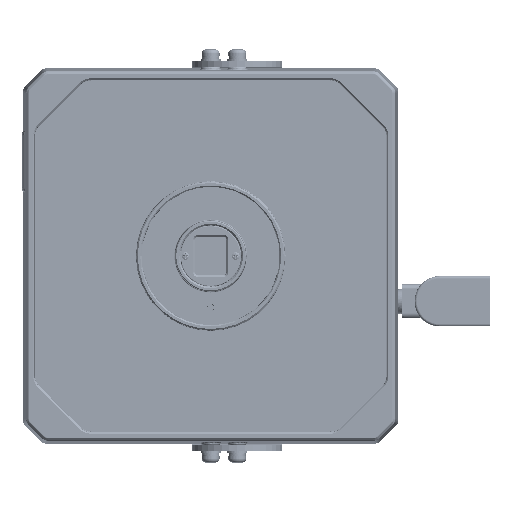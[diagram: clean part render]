
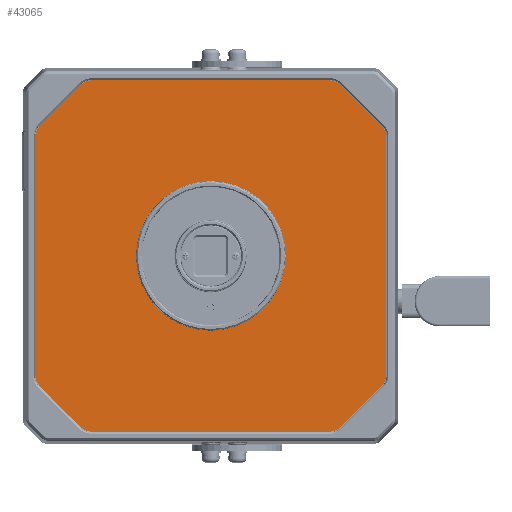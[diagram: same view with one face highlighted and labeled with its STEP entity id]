
A CAD part, front view. The second image highlights one B-rep face of the part: STEP entity #43065.
In plain terms, the highlighted planar face has unit normal (0, -1, 0).
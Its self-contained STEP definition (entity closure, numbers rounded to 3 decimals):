
#39013=DIRECTION('',(-0.707,0.,0.707));
#39014=VECTOR('',#39013,23.314);
#39015=CARTESIAN_POINT('',(68.024,0.,
51.539));
#39016=LINE('',#39015,#39014);
#39017=CARTESIAN_POINT('',(63.8,0.,47.315));
#39018=DIRECTION('',(0.,-1.,0.));
#39019=DIRECTION('',(1.,0.,0.));
#39020=AXIS2_PLACEMENT_3D('',#39017,#39018,#39019);
#39022=CARTESIAN_POINT('',(63.8,0.,-47.315));
#39023=DIRECTION('',(0.,-1.,0.));
#39024=DIRECTION('',(0.707,0.,-0.707));
#39025=AXIS2_PLACEMENT_3D('',#39022,#39023,#39024);
#39027=DIRECTION('',(0.707,0.,0.707));
#39028=VECTOR('',#39027,23.314);
#39029=CARTESIAN_POINT('',(51.539,0.,
-68.024));
#39030=LINE('',#39029,#39028);
#39031=CARTESIAN_POINT('',(47.315,0.,-63.8));
#39032=DIRECTION('',(0.,-1.,0.));
#39033=DIRECTION('',(0.,0.,-1.));
#39034=AXIS2_PLACEMENT_3D('',#39031,#39032,#39033);
#39036=CARTESIAN_POINT('',(-47.315,0.,-63.8));
#39037=DIRECTION('',(0.,-1.,0.));
#39038=DIRECTION('',(-0.707,0.,-0.707));
#39039=AXIS2_PLACEMENT_3D('',#39036,#39037,#39038);
#39041=DIRECTION('',(0.707,0.,-0.707));
#39042=VECTOR('',#39041,23.314);
#39043=CARTESIAN_POINT('',(-68.024,0.,
-51.539));
#39044=LINE('',#39043,#39042);
#39045=CARTESIAN_POINT('',(-63.8,0.,-47.315));
#39046=DIRECTION('',(0.,-1.,0.));
#39047=DIRECTION('',(-1.,0.,0.));
#39048=AXIS2_PLACEMENT_3D('',#39045,#39046,#39047);
#39050=CARTESIAN_POINT('',(-63.8,0.,47.315));
#39051=DIRECTION('',(0.,-1.,0.));
#39052=DIRECTION('',(-0.707,0.,0.707));
#39053=AXIS2_PLACEMENT_3D('',#39050,#39051,#39052);
#39055=DIRECTION('',(-0.707,0.,-0.707));
#39056=VECTOR('',#39055,23.314);
#39057=CARTESIAN_POINT('',(-51.539,0.,
68.024));
#39058=LINE('',#39057,#39056);
#39059=CARTESIAN_POINT('',(-47.315,0.,63.8));
#39060=DIRECTION('',(0.,-1.,0.));
#39061=DIRECTION('',(0.,0.,1.));
#39062=AXIS2_PLACEMENT_3D('',#39059,#39060,#39061);
#39064=CARTESIAN_POINT('',(47.315,0.,63.8));
#39065=DIRECTION('',(0.,-1.,0.));
#39066=DIRECTION('',(0.707,0.,0.707));
#39067=AXIS2_PLACEMENT_3D('',#39064,#39065,#39066);
#39077=DIRECTION('',(1.,0.,0.));
#39078=VECTOR('',#39077,94.629);
#39079=CARTESIAN_POINT('',(-47.315,0.,
69.774));
#39080=LINE('',#39079,#39078);
#39097=DIRECTION('',(0.,0.,1.));
#39098=VECTOR('',#39097,94.629);
#39099=CARTESIAN_POINT('',(-69.774,0.,
-47.315));
#39100=LINE('',#39099,#39098);
#39780=DIRECTION('',(-1.,0.,0.));
#39781=VECTOR('',#39780,94.629);
#39782=CARTESIAN_POINT('',(47.315,0.,
-69.774));
#39783=LINE('',#39782,#39781);
#39800=DIRECTION('',(0.,0.,-1.));
#39801=VECTOR('',#39800,94.629);
#39802=CARTESIAN_POINT('',(69.774,0.,
47.315));
#39803=LINE('',#39802,#39801);
#39880=CARTESIAN_POINT('',(0.,0.,0.));
#39881=DIRECTION('',(0.,-1.,0.));
#39882=DIRECTION('',(-1.,0.,0.));
#39883=AXIS2_PLACEMENT_3D('',#39880,#39881,#39882);
#39894=CARTESIAN_POINT('',(0.,0.,0.));
#39895=DIRECTION('',(0.,-1.,0.));
#39896=DIRECTION('',(1.,0.,0.));
#39897=AXIS2_PLACEMENT_3D('',#39894,#39895,#39896);
#42447=CARTESIAN_POINT('',(-29.75,0.,0.));
#42448=VERTEX_POINT('',#42447);
#42449=CARTESIAN_POINT('',(29.75,0.,
0.));
#42450=VERTEX_POINT('',#42449);
#42571=CARTESIAN_POINT('',(69.774,0.,
47.315));
#42572=VERTEX_POINT('',#42571);
#42573=CARTESIAN_POINT('',(68.024,0.,
51.539));
#42574=VERTEX_POINT('',#42573);
#42575=CARTESIAN_POINT('',(69.774,0.,
-47.315));
#42576=VERTEX_POINT('',#42575);
#42577=CARTESIAN_POINT('',(68.024,0.,
-51.539));
#42578=VERTEX_POINT('',#42577);
#42579=CARTESIAN_POINT('',(51.539,0.,
-68.024));
#42580=VERTEX_POINT('',#42579);
#42581=CARTESIAN_POINT('',(47.315,0.,
-69.774));
#42582=VERTEX_POINT('',#42581);
#42583=CARTESIAN_POINT('',(-47.315,0.,
-69.774));
#42584=VERTEX_POINT('',#42583);
#42585=CARTESIAN_POINT('',(-51.539,0.,
-68.024));
#42586=VERTEX_POINT('',#42585);
#42587=CARTESIAN_POINT('',(-68.024,0.,
-51.539));
#42588=VERTEX_POINT('',#42587);
#42589=CARTESIAN_POINT('',(-69.774,0.,
-47.315));
#42590=VERTEX_POINT('',#42589);
#42591=CARTESIAN_POINT('',(-69.774,0.,
47.315));
#42592=VERTEX_POINT('',#42591);
#42593=CARTESIAN_POINT('',(-68.024,0.,
51.539));
#42594=VERTEX_POINT('',#42593);
#42595=CARTESIAN_POINT('',(-51.539,0.,
68.024));
#42596=VERTEX_POINT('',#42595);
#42597=CARTESIAN_POINT('',(-47.315,0.,
69.774));
#42598=VERTEX_POINT('',#42597);
#42599=CARTESIAN_POINT('',(47.315,0.,
69.774));
#42600=VERTEX_POINT('',#42599);
#42601=CARTESIAN_POINT('',(51.539,0.,
68.024));
#42602=VERTEX_POINT('',#42601);
#43021=CARTESIAN_POINT('',(0.,0.,0.));
#43022=DIRECTION('',(0.,1.,0.));
#43023=DIRECTION('',(1.,0.,0.));
#43024=AXIS2_PLACEMENT_3D('',#43021,#43022,#43023);
#43025=PLANE('',#43024);
#43027=ORIENTED_EDGE('',*,*,#43026,.F.);
#43029=ORIENTED_EDGE('',*,*,#43028,.F.);
#43031=ORIENTED_EDGE('',*,*,#43030,.T.);
#43033=ORIENTED_EDGE('',*,*,#43032,.F.);
#43035=ORIENTED_EDGE('',*,*,#43034,.F.);
#43037=ORIENTED_EDGE('',*,*,#43036,.F.);
#43039=ORIENTED_EDGE('',*,*,#43038,.T.);
#43041=ORIENTED_EDGE('',*,*,#43040,.F.);
#43042=ORIENTED_EDGE('',*,*,#43009,.F.);
#43044=ORIENTED_EDGE('',*,*,#43043,.F.);
#43046=ORIENTED_EDGE('',*,*,#43045,.T.);
#43048=ORIENTED_EDGE('',*,*,#43047,.F.);
#43050=ORIENTED_EDGE('',*,*,#43049,.F.);
#43052=ORIENTED_EDGE('',*,*,#43051,.F.);
#43054=ORIENTED_EDGE('',*,*,#43053,.T.);
#43056=ORIENTED_EDGE('',*,*,#43055,.F.);
#43057=EDGE_LOOP('',(#43027,#43029,#43031,#43033,#43035,#43037,#43039,#43041,
#43042,#43044,#43046,#43048,#43050,#43052,#43054,#43056));
#43058=FACE_OUTER_BOUND('',#43057,.F.);
#43060=ORIENTED_EDGE('',*,*,#43059,.T.);
#43062=ORIENTED_EDGE('',*,*,#43061,.T.);
#43063=EDGE_LOOP('',(#43060,#43062));
#43064=FACE_BOUND('',#43063,.F.);
#43065=ADVANCED_FACE('',(#43058,#43064),#43025,.F.);
#39021=CIRCLE('',#39020,5.974);
#39026=CIRCLE('',#39025,5.974);
#39035=CIRCLE('',#39034,5.974);
#39040=CIRCLE('',#39039,5.974);
#39049=CIRCLE('',#39048,5.974);
#39054=CIRCLE('',#39053,5.974);
#39063=CIRCLE('',#39062,5.974);
#39068=CIRCLE('',#39067,5.974);
#39884=CIRCLE('',#39883,29.75);
#39898=CIRCLE('',#39897,29.75);
#43009=EDGE_CURVE('',#42588,#42586,#39044,.T.);
#43026=EDGE_CURVE('',#42574,#42602,#39016,.T.);
#43028=EDGE_CURVE('',#42572,#42574,#39021,.T.);
#43030=EDGE_CURVE('',#42572,#42576,#39803,.T.);
#43032=EDGE_CURVE('',#42578,#42576,#39026,.T.);
#43034=EDGE_CURVE('',#42580,#42578,#39030,.T.);
#43036=EDGE_CURVE('',#42582,#42580,#39035,.T.);
#43038=EDGE_CURVE('',#42582,#42584,#39783,.T.);
#43040=EDGE_CURVE('',#42586,#42584,#39040,.T.);
#43043=EDGE_CURVE('',#42590,#42588,#39049,.T.);
#43045=EDGE_CURVE('',#42590,#42592,#39100,.T.);
#43047=EDGE_CURVE('',#42594,#42592,#39054,.T.);
#43049=EDGE_CURVE('',#42596,#42594,#39058,.T.);
#43051=EDGE_CURVE('',#42598,#42596,#39063,.T.);
#43053=EDGE_CURVE('',#42598,#42600,#39080,.T.);
#43055=EDGE_CURVE('',#42602,#42600,#39068,.T.);
#43059=EDGE_CURVE('',#42448,#42450,#39884,.T.);
#43061=EDGE_CURVE('',#42450,#42448,#39898,.T.);
